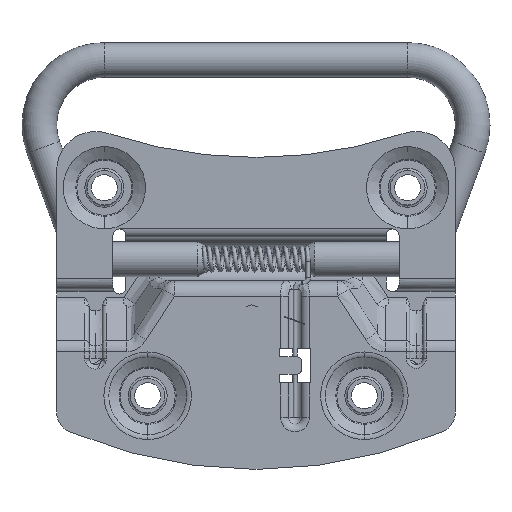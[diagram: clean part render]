
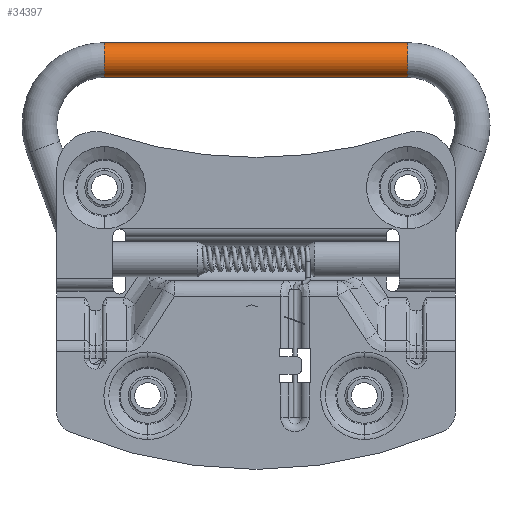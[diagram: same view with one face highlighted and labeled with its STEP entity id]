
A CAD part, front view. The second image highlights one B-rep face of the part: STEP entity #34397.
In plain terms, the highlighted cylindrical face has radius 4 mm (diameter 8 mm), a partial arc.
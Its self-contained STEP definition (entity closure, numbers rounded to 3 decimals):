
#4256 = ORIENTED_EDGE ( 'NONE', *, *, #18842, .T. ) ;
#4986 = VERTEX_POINT ( 'NONE', #8242 ) ;
#7313 = VERTEX_POINT ( 'NONE', #9132 ) ;
#8242 = CARTESIAN_POINT ( 'NONE',  ( -35., 0., 50. ) ) ;
#9132 = CARTESIAN_POINT ( 'NONE',  ( 35., 0., 50. ) ) ;
#9167 = DIRECTION ( 'NONE',  ( -1., 0., 0. ) ) ;
#11842 = CARTESIAN_POINT ( 'NONE',  ( -35., 0., 46. ) ) ;
#12501 = LINE ( 'NONE', #23686, #39888 ) ;
#14702 = VERTEX_POINT ( 'NONE', #21615 ) ;
#15113 = CARTESIAN_POINT ( 'NONE',  ( -35., 0., 46. ) ) ;
#15119 = AXIS2_PLACEMENT_3D ( 'NONE', #29762, #9167, #33206 ) ;
#15948 = EDGE_CURVE ( 'NONE', #4986, #7313, #12501, .T. ) ;
#17773 = CARTESIAN_POINT ( 'NONE',  ( 35., 0., 42. ) ) ;
#18564 = DIRECTION ( 'NONE',  ( 0., 0., 1. ) ) ;
#18842 = EDGE_CURVE ( 'NONE', #14702, #30895, #41979, .T. ) ;
#21258 = EDGE_CURVE ( 'NONE', #14702, #4986, #26679, .T. ) ;
#21615 = CARTESIAN_POINT ( 'NONE',  ( -35., 0., 42. ) ) ;
#23182 = CARTESIAN_POINT ( 'NONE',  ( -35., 0., 42. ) ) ;
#23640 = ORIENTED_EDGE ( 'NONE', *, *, #21258, .F. ) ;
#23686 = CARTESIAN_POINT ( 'NONE',  ( -35., 0., 50. ) ) ;
#24742 = ORIENTED_EDGE ( 'NONE', *, *, #15948, .F. ) ;
#25016 = EDGE_CURVE ( 'NONE', #30895, #7313, #36218, .T. ) ;
#25567 = AXIS2_PLACEMENT_3D ( 'NONE', #11842, #42770, #39292 ) ;
#26679 = CIRCLE ( 'NONE', #29482, 4. ) ;
#29482 = AXIS2_PLACEMENT_3D ( 'NONE', #15113, #39126, #18564 ) ;
#29762 = CARTESIAN_POINT ( 'NONE',  ( 35., 0., 46. ) ) ;
#30895 = VERTEX_POINT ( 'NONE', #17773 ) ;
#31786 = VECTOR ( 'NONE', #33562, 1000. ) ;
#33206 = DIRECTION ( 'NONE',  ( 0., 0., 1. ) ) ;
#33562 = DIRECTION ( 'NONE',  ( 1., 0., 0. ) ) ;
#33620 = CYLINDRICAL_SURFACE ( 'NONE', #25567, 4. ) ;
#34397 = ADVANCED_FACE ( 'NONE', ( #34703 ), #33620, .T. ) ;
#34703 = FACE_OUTER_BOUND ( 'NONE', #39434, .T. ) ;
#36218 = CIRCLE ( 'NONE', #15119, 4. ) ;
#39126 = DIRECTION ( 'NONE',  ( -1., 0., 0. ) ) ;
#39292 = DIRECTION ( 'NONE',  ( 0., 0., -1. ) ) ;
#39434 = EDGE_LOOP ( 'NONE', ( #24742, #23640, #4256, #39721 ) ) ;
#39721 = ORIENTED_EDGE ( 'NONE', *, *, #25016, .T. ) ;
#39888 = VECTOR ( 'NONE', #44409, 1000. ) ;
#41979 = LINE ( 'NONE', #23182, #31786 ) ;
#42770 = DIRECTION ( 'NONE',  ( 1., 0., 0. ) ) ;
#44409 = DIRECTION ( 'NONE',  ( 1., 0., 0. ) ) ;
